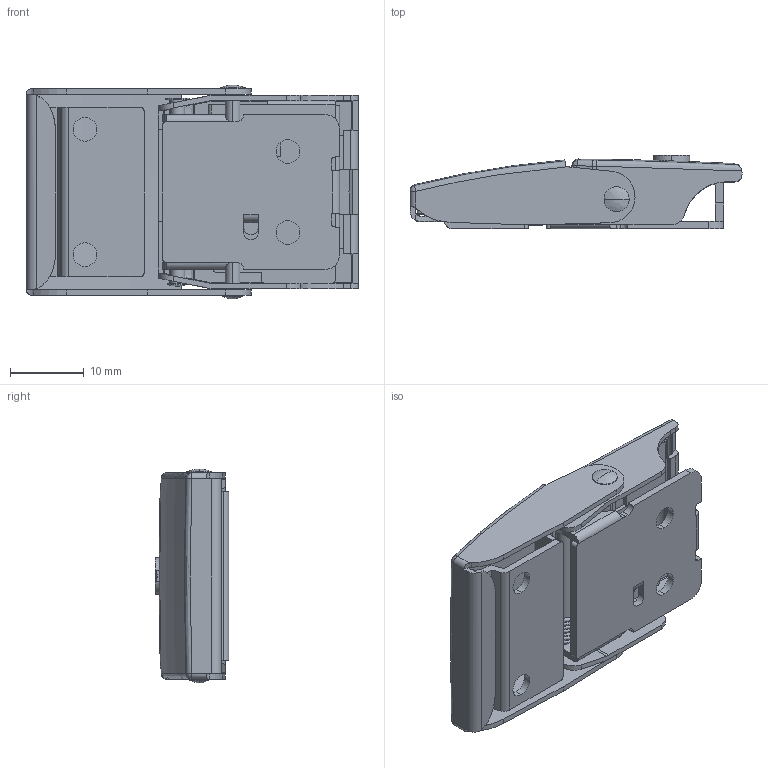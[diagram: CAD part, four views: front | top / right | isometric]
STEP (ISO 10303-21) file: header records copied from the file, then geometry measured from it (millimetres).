
FILE_DESCRIPTION (( 'STEP AP203' ), '1' );
FILE_NAME ('ELP-116S.STEP', '2013-08-29T06:35:37', ( 'SDS' ), ( 'SDS' ), 'SwSTEP 2.0', 'SolidWorks 2002296', '' );
FILE_SCHEMA (( 'CONFIG_CONTROL_DESIGN' ));
Length unit declared in the file: millimetre
Products named in the file (5): ELP-116S; ELP-116S4_蹬怮椔; ELP-116S1_蹬怮椔; ELP-116S2_蹬怮椔; ELP-116S3_蹬怮椔
Assembly tree (4 placements, depth 2):
  ELP-116S
    ELP-116S3_蹬怮椔
    ELP-116S1_蹬怮椔
    ELP-116S4_蹬怮椔
    ELP-116S2_蹬怮椔
Bounding box: 45 x 10 x 29 mm (x, y, z)
Volume: 1849.1 mm3; surface area: 8332.4 mm2
Topology: 3 solids, 5 shells, 369 faces, 1011 edges, 641 vertices
Faces by surface type: plane 192, cylinder 130, bspline 47
Entity records: 16494 total; most frequent: CARTESIAN_POINT 6907, ORIENTED_EDGE 1990, DIRECTION 1791, EDGE_CURVE 998, VERTEX_POINT 641, AXIS2_PLACEMENT_3D 604, LINE 583, VECTOR 583
